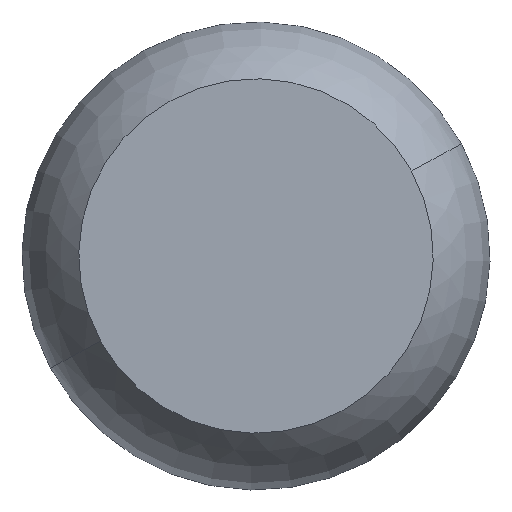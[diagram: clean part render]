
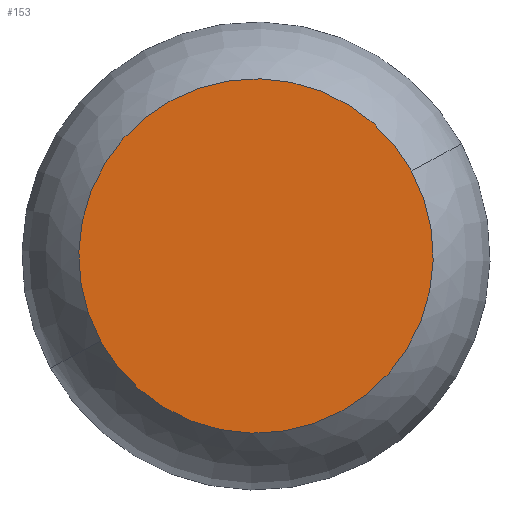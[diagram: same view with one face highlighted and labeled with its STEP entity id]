
A CAD part, front view. The second image highlights one B-rep face of the part: STEP entity #153.
In plain terms, the highlighted planar face has unit normal (0, -1, 0).
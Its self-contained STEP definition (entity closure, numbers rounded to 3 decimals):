
#66=CARTESIAN_POINT('Axis2P3D Location',(0.,0.,0.)) ;
#70=CARTESIAN_POINT('Vertex',(87.758,0.,47.943)) ;
#72=CARTESIAN_POINT('Vertex',(-87.758,0.,-47.943)) ;
#127=CARTESIAN_POINT('Axis2P3D Location',(0.,0.,0.)) ;
#144=CARTESIAN_POINT('Axis2P3D Location',(0.,0.,0.)) ;
#67=DIRECTION('Axis2P3D Direction',(0.,-1.,0.)) ;
#128=DIRECTION('Axis2P3D Direction',(0.,-1.,0.)) ;
#145=DIRECTION('Axis2P3D Direction',(0.,-1.,0.)) ;
#146=DIRECTION('Axis2P3D XDirection',(1.,0.,0.)) ;
#68=AXIS2_PLACEMENT_3D('Circle Axis2P3D',#66,#67,$) ;
#129=AXIS2_PLACEMENT_3D('Circle Axis2P3D',#127,#128,$) ;
#147=AXIS2_PLACEMENT_3D('Plane Axis2P3D',#144,#145,#146) ;
#150=ORIENTED_EDGE('',*,*,#74,.T.) ;
#151=ORIENTED_EDGE('',*,*,#131,.T.) ;
#153=ADVANCED_FACE('PartBody',(#152),#148,.T.) ;
#69=CIRCLE('generated circle',#68,100.) ;
#130=CIRCLE('generated circle',#129,100.) ;
#74=EDGE_CURVE('',#71,#73,#69,.T.) ;
#131=EDGE_CURVE('',#73,#71,#130,.T.) ;
#149=EDGE_LOOP('',(#150,#151)) ;
#152=FACE_OUTER_BOUND('',#149,.T.) ;
#148=PLANE('',#147) ;
#71=VERTEX_POINT('',#70) ;
#73=VERTEX_POINT('',#72) ;
